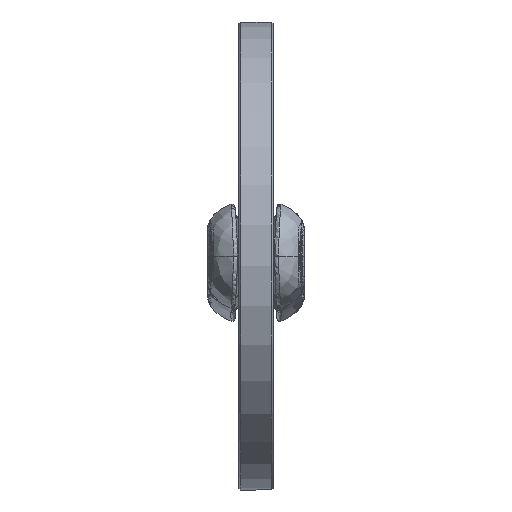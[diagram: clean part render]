
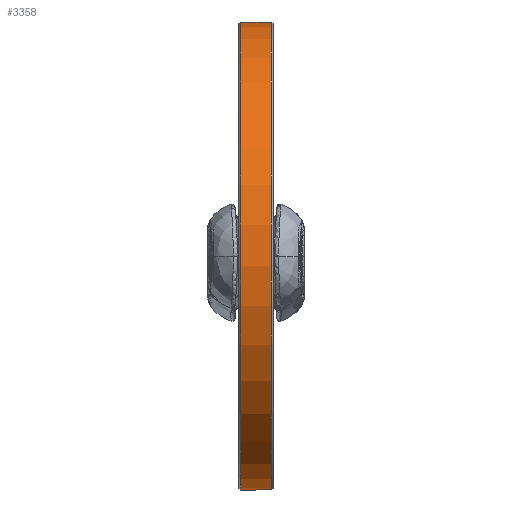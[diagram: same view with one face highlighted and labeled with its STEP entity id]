
A CAD part, top view. The second image highlights one B-rep face of the part: STEP entity #3358.
In plain terms, the highlighted cylindrical face has radius 545 mm (diameter 1090 mm), a full revolution.
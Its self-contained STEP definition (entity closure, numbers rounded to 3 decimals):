
#695=CYLINDRICAL_SURFACE($,#3732,545.);
#802=FACE_BOUND($,#1352,.T.);
#1030=FACE_OUTER_BOUND($,#1351,.T.);
#1351=EDGE_LOOP($,(#3078));
#1352=EDGE_LOOP($,(#3079));
#1559=CIRCLE($,#3731,545.);
#1560=CIRCLE($,#3733,545.);
#1848=VERTEX_POINT($,#14177);
#1849=VERTEX_POINT($,#14180);
#2263=EDGE_CURVE($,#1848,#1848,#1559,.T.);
#2264=EDGE_CURVE($,#1849,#1849,#1560,.T.);
#3078=ORIENTED_EDGE($,*,*,#2264,.F.);
#3079=ORIENTED_EDGE($,*,*,#2263,.F.);
#3358=ADVANCED_FACE($,(#1030,#802),#695,.T.);
#3731=AXIS2_PLACEMENT_3D($,#14178,#4520,#4521);
#3732=AXIS2_PLACEMENT_3D($,#14179,#4522,#4523);
#3733=AXIS2_PLACEMENT_3D($,#14181,#4524,#4525);
#4520=DIRECTION('center_axis',(0.,0.,-1.));
#4521=DIRECTION('ref_axis',(-1.,0.,0.));
#4522=DIRECTION('center_axis',(0.,0.,1.));
#4523=DIRECTION('ref_axis',(-1.,0.,0.));
#4524=DIRECTION('center_axis',(0.,0.,1.));
#4525=DIRECTION('ref_axis',(-1.,0.,0.));
#14177=CARTESIAN_POINT('',(545.,0.,-36.));
#14178=CARTESIAN_POINT('Origin',(0.,0.,-36.));
#14179=CARTESIAN_POINT('Origin',(0.,0.,0.));
#14180=CARTESIAN_POINT('',(545.,0.,36.));
#14181=CARTESIAN_POINT('Origin',(0.,0.,36.));
